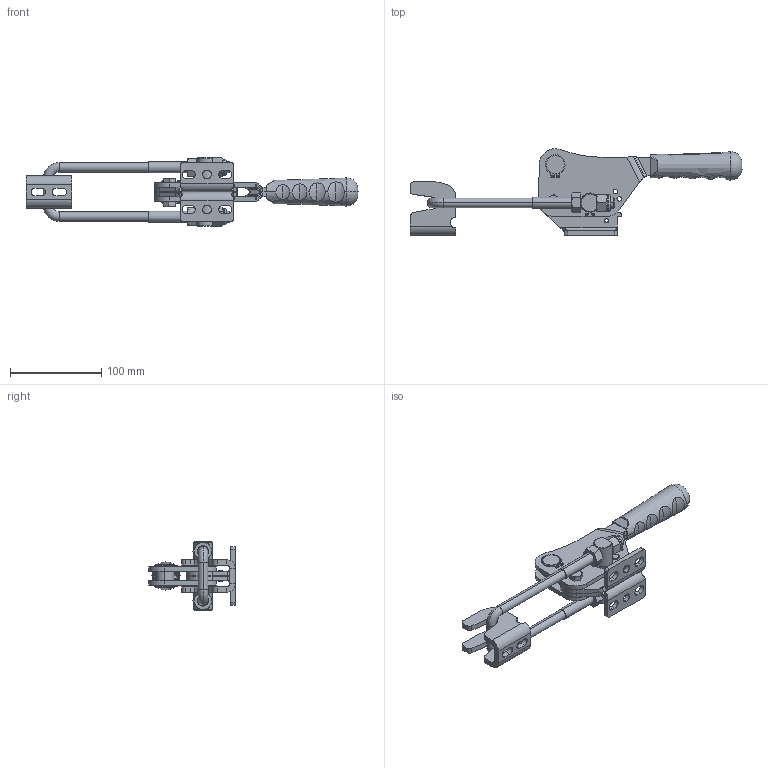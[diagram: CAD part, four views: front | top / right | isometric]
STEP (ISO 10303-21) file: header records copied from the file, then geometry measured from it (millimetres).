
FILE_DESCRIPTION (( 'STEP AP203' ), '1' );
FILE_NAME ('13112_Y.STEP', '2022-11-30T12:51:37', ( '' ), ( '' ), 'SwSTEP 2.0', 'SolidWorks 2023', '' );
FILE_SCHEMA (( 'CONFIG_CONTROL_DESIGN' ));
Length unit declared in the file: millimetre
Products named in the file (18): 13210 Gövde; Aynalama13210 Gövde; 07210-12; hexagon_bolt_jis_b_1180_c_m8_x25_Varsayılan; Aynalama13210 H kolu; Pim_5x22_Varsayılan; 13210 H kolu; M8 Somun_Varsayılan; mandal 2; Karşılık kancası m 12; 1391_Kanca mili_Varsayılan; 5-12-1330659; C100_Yeni_Tutamak_10x20_Varsayılan; M12_U_Kanca_Varsayılan; autolock_nut_h_fr_nf_e_25-409_m12_6_1; 13112_Y; circlips_o20-uni_7435; cap 20 malzeme 
Assembly tree (21 placements, depth 2):
  mandal 2
  13112_Y
    13210 Gövde
    13210 H kolu
    Aynalama13210 Gövde
    1391_Kanca mili_Varsayılan
    Pim_5x22_Varsayılan
    M8 Somun_Varsayılan
    M12_U_Kanca_Varsayılan
    cap 20 malzeme 
    Karşılık kancası m 12
    Aynalama13210 H kolu
    07210-12  x2
    5-12-1330659
    autolock_nut_h_fr_nf_e_25-409_m12_6_1  x2
    circlips_o20-uni_7435  x4
    hexagon_bolt_jis_b_1180_c_m8_x25_Varsayılan
    C100_Yeni_Tutamak_10x20_Varsayılan
Bounding box: 363.61 x 94.79 x 75 mm (x, y, z)
Volume: 272443.6 mm3; surface area: 122674.8 mm2
Topology: 21 solids, 21 shells, 731 faces, 1829 edges, 1163 vertices
Faces by surface type: plane 352, cylinder 243, cone 76, bspline 32, torus 28
Entity records: 24396 total; most frequent: CARTESIAN_POINT 7385, ORIENTED_EDGE 3148, DIRECTION 3080, EDGE_CURVE 1574, AXIS2_PLACEMENT_3D 1122, VERTEX_POINT 1001, VECTOR 836, LINE 836
